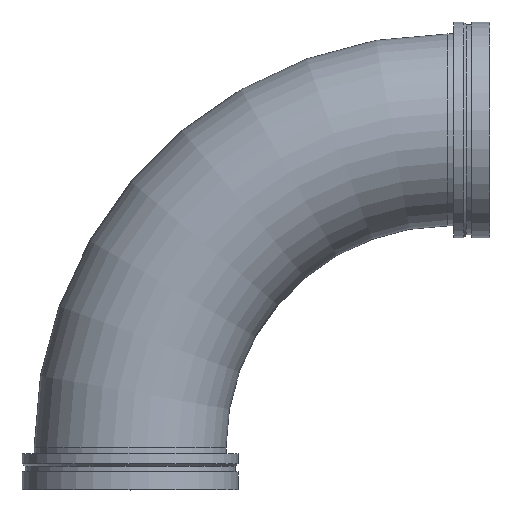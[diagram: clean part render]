
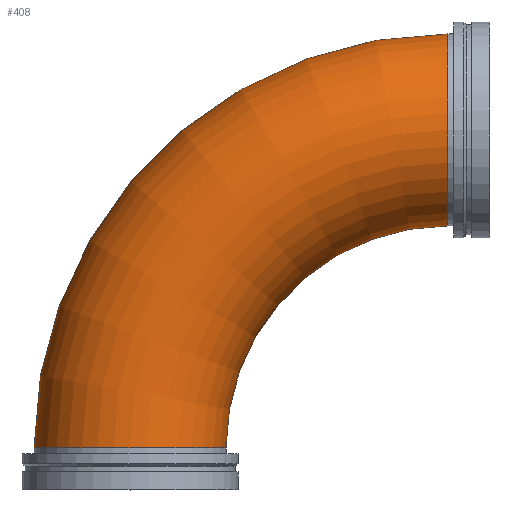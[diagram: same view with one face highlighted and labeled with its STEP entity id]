
A CAD part, top view. The second image highlights one B-rep face of the part: STEP entity #408.
In plain terms, the highlighted toroidal (fillet/blend) face has major radius 673.1 mm and minor radius 203.2 mm.
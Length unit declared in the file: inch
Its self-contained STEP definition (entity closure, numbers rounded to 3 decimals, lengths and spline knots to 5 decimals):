
#46=TOROIDAL_SURFACE('',#484,26.5,8.);
#105=FACE_OUTER_BOUND('',#129,.T.);
#129=EDGE_LOOP('',(#346,#347,#348,#349,#350,#351));
#169=CIRCLE('',#482,8.);
#170=CIRCLE('',#483,8.);
#171=CIRCLE('',#485,18.5);
#172=CIRCLE('',#486,8.);
#173=CIRCLE('',#487,8.);
#207=VERTEX_POINT('',#756);
#208=VERTEX_POINT('',#758);
#209=VERTEX_POINT('',#762);
#210=VERTEX_POINT('',#764);
#256=EDGE_CURVE('',#207,#208,#169,.T.);
#257=EDGE_CURVE('',#208,#207,#170,.T.);
#258=EDGE_CURVE('',#208,#209,#171,.T.);
#259=EDGE_CURVE('',#209,#210,#172,.T.);
#260=EDGE_CURVE('',#210,#209,#173,.T.);
#346=ORIENTED_EDGE('',*,*,#256,.F.);
#347=ORIENTED_EDGE('',*,*,#257,.F.);
#348=ORIENTED_EDGE('',*,*,#258,.T.);
#349=ORIENTED_EDGE('',*,*,#259,.T.);
#350=ORIENTED_EDGE('',*,*,#260,.T.);
#351=ORIENTED_EDGE('',*,*,#258,.F.);
#408=ADVANCED_FACE('',(#105),#46,.T.);
#482=AXIS2_PLACEMENT_3D('',#759,#617,#618);
#483=AXIS2_PLACEMENT_3D('',#760,#619,#620);
#484=AXIS2_PLACEMENT_3D('',#761,#621,#622);
#485=AXIS2_PLACEMENT_3D('',#763,#623,#624);
#486=AXIS2_PLACEMENT_3D('',#765,#625,#626);
#487=AXIS2_PLACEMENT_3D('',#766,#627,#628);
#617=DIRECTION('center_axis',(1.,0.,0.));
#618=DIRECTION('ref_axis',(0.,-1.,0.));
#619=DIRECTION('center_axis',(1.,0.,0.));
#620=DIRECTION('ref_axis',(0.,-1.,0.));
#621=DIRECTION('center_axis',(0.,0.,-1.));
#622=DIRECTION('ref_axis',(-1.,0.,0.));
#623=DIRECTION('center_axis',(0.,0.,1.));
#624=DIRECTION('ref_axis',(-1.,0.,0.));
#625=DIRECTION('center_axis',(0.,1.,0.));
#626=DIRECTION('ref_axis',(1.,0.,0.));
#627=DIRECTION('center_axis',(0.,1.,0.));
#628=DIRECTION('ref_axis',(1.,0.,0.));
#756=CARTESIAN_POINT('',(26.5,38.,0.));
#758=CARTESIAN_POINT('',(26.5,22.,0.));
#759=CARTESIAN_POINT('Origin',(26.5,30.,0.));
#760=CARTESIAN_POINT('Origin',(26.5,30.,0.));
#761=CARTESIAN_POINT('Origin',(26.5,3.5,0.));
#762=CARTESIAN_POINT('',(8.,3.5,0.));
#763=CARTESIAN_POINT('Origin',(26.5,3.5,0.));
#764=CARTESIAN_POINT('',(-8.,3.5,0.));
#765=CARTESIAN_POINT('Origin',(0.,3.5,0.));
#766=CARTESIAN_POINT('Origin',(0.,3.5,0.));
